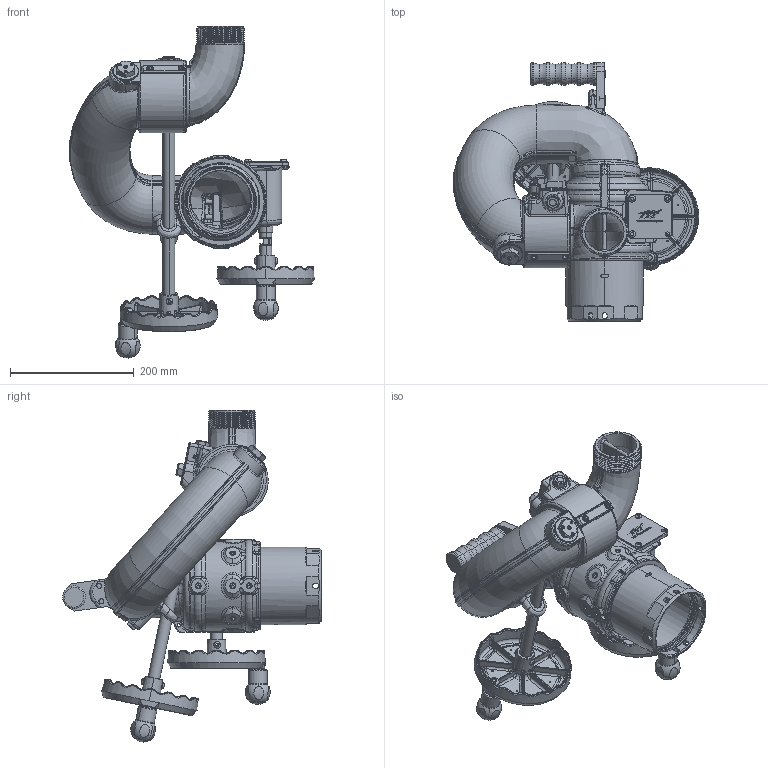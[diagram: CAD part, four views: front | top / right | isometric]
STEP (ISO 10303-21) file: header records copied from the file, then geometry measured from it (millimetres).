
FILE_DESCRIPTION (( 'STEP AP203' ), '1' );
FILE_NAME ('XFIH-DP1A.STEP', '2017-06-13T20:04:44', ( '' ), ( '' ), 'SwSTEP 2.0', 'SolidWorks 2016', '' );
FILE_SCHEMA (( 'CONFIG_CONTROL_DESIGN' ));
Length unit declared in the file: inch
Products named in the file (1): XFIH-DP1A
Bounding box: 397.2 x 418.81 x 537.52 mm (x, y, z)
Surface area: 747686.9 mm2 (no closed solid volume)
Topology: 0 solids, 119 shells, 2476 faces, 8949 edges, 6358 vertices
Faces by surface type: bspline 793, plane 580, cylinder 559, torus 308, cone 190, sphere 46
Entity records: 158946 total; most frequent: CARTESIAN_POINT 91282, ORIENTED_EDGE 14121, DIRECTION 12146, EDGE_CURVE 8915, VERTEX_POINT 6354, AXIS2_PLACEMENT_3D 4485, VECTOR 3176, LINE 3176
